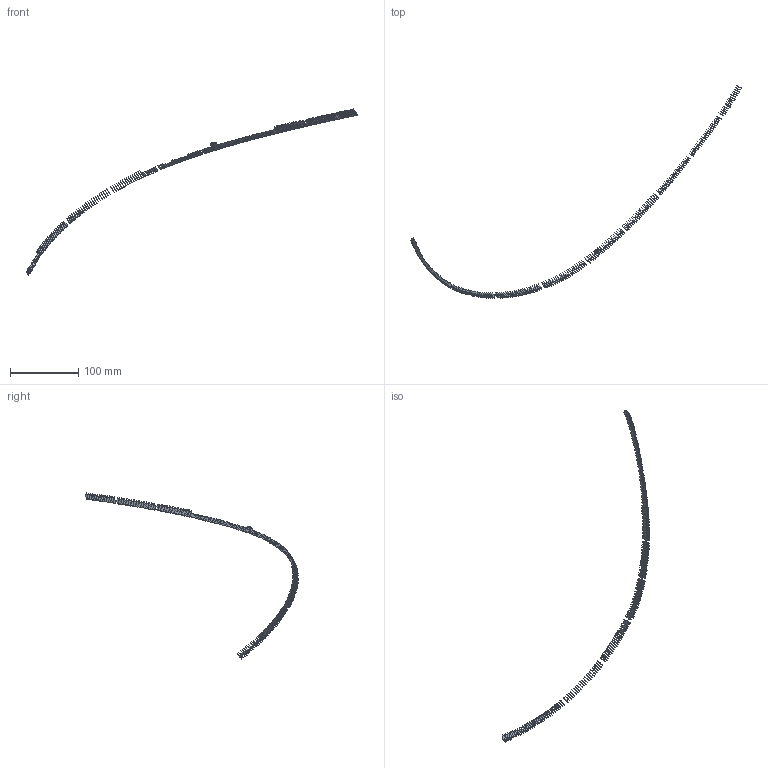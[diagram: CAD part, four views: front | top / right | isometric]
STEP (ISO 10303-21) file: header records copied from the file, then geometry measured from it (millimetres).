
FILE_DESCRIPTION(('FreeCAD Model'),'2;1');
FILE_NAME('Open CASCADE Shape Model','2022-05-22T07:50:33',('FreeCAD'),( 'FreeCAD'),'Open CASCADE STEP processor 7.5','FreeCAD','Unknown');
FILE_SCHEMA(('AUTOMOTIVE_DESIGN { 1 0 10303 214 1 1 1 1 }'));
Length unit declared in the file: millimetre
Products named in the file (214): Open CASCADE STEP translator 7.5 10; Open CASCADE STEP translator 7.5 10.1; Open CASCADE STEP translator 7.5 10.2; Open CASCADE STEP translator 7.5 10.3; Open CASCADE STEP translator 7.5 10.4; Open CASCADE STEP translator 7.5 10.5; Open CASCADE STEP translator 7.5 10.6; Open CASCADE STEP translator 7.5 10.7; Open CASCADE STEP translator 7.5 10.8; Open CASCADE STEP translator 7.5 10.9; Open CASCADE STEP translator 7.5 10.10; Open CASCADE STEP translator 7.5 10.11; Open CASCADE STEP translator 7.5 10.12; Open CASCADE STEP translator 7.5 10.13; Open CASCADE STEP translator 7.5 10.14; Open CASCADE STEP translator 7.5 10.15; Open CASCADE STEP translator 7.5 10.16; Open CASCADE STEP translator 7.5 10.17; Open CASCADE STEP translator 7.5 10.18; Open CASCADE STEP translator 7.5 10.19; Open CASCADE STEP translator 7.5 10.20; Open CASCADE STEP translator 7.5 10.21; Open CASCADE STEP translator 7.5 10.22; Open CASCADE STEP translator 7.5 10.23; Open CASCADE STEP translator 7.5 10.24; Open CASCADE STEP translator 7.5 10.25; Open CASCADE STEP translator 7.5 10.26; Open CASCADE STEP translator 7.5 10.27; Open CASCADE STEP translator 7.5 10.28; Open CASCADE STEP translator 7.5 10.29; Open CASCADE STEP translator 7.5 10.30; Open CASCADE STEP translator 7.5 10.31; Open CASCADE STEP translator 7.5 10.32; Open CASCADE STEP translator 7.5 10.33; Open CASCADE STEP translator 7.5 10.34; Open CASCADE STEP translator 7.5 10.35; Open CASCADE STEP translator 7.5 10.36; Open CASCADE STEP translator 7.5 10.37; Open CASCADE STEP translator 7.5 10.38; Open CASCADE STEP translator 7.5 10.39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
Assembly tree (213 placements, depth 2):
  Open CASCADE STEP translator 7.5 10
    Open CASCADE STEP translator 7.5 10.1
    Open CASCADE STEP translator 7.5 10.2
    Open CASCADE STEP translator 7.5 10.3
    Open CASCADE STEP translator 7.5 10.4
    Open CASCADE STEP translator 7.5 10.5
    Open CASCADE STEP translator 7.5 10.6
    Open CASCADE STEP translator 7.5 10.7
    Open CASCADE STEP translator 7.5 10.8
    Open CASCADE STEP translator 7.5 10.9
    Open CASCADE STEP translator 7.5 10.10
    Open CASCADE STEP translator 7.5 10.11
    Open CASCADE STEP translator 7.5 10.12
    Open CASCADE STEP translator 7.5 10.13
    Open CASCADE STEP translator 7.5 10.14
    Open CASCADE STEP translator 7.5 10.15
    Open CASCADE STEP translator 7.5 10.16
    Open CASCADE STEP translator 7.5 10.17
    Open CASCADE STEP translator 7.5 10.18
    Open CASCADE STEP translator 7.5 10.19
    Open CASCADE STEP translator 7.5 10.20
    Open CASCADE STEP translator 7.5 10.21
    Open CASCADE STEP translator 7.5 10.22
    Open CASCADE STEP translator 7.5 10.23
    Open CASCADE STEP translator 7.5 10.24
    Open CASCADE STEP translator 7.5 10.25
    Open CASCADE STEP translator 7.5 10.26
    Open CASCADE STEP translator 7.5 10.27
    Open CASCADE STEP translator 7.5 10.28
    Open CASCADE STEP translator 7.5 10.29
    Open CASCADE STEP translator 7.5 10.30
    Open CASCADE STEP translator 7.5 10.31
    Open CASCADE STEP translator 7.5 10.32
    Open CASCADE STEP translator 7.5 10.33
    Open CASCADE STEP translator 7.5 10.34
    Open CASCADE STEP translator 7.5 10.35
    Open CASCADE STEP translator 7.5 10.36
    Open CASCADE STEP translator 7.5 10.37
    Open CASCADE STEP translator 7.5 10.38
    Open CASCADE STEP translator 7.5 10.39
    Open CASCADE STEP translator 7.5 10.40
    Open CASCADE STEP translator 7.5 10.41
    Open CASCADE STEP translator 7.5 10.42
    Open CASCADE STEP translator 7.5 10.43
    Open CASCADE STEP translator 7.5 10.44
    Open CASCADE STEP translator 7.5 10.45
    Open CASCADE STEP translator 7.5 10.46
    Open CASCADE STEP translator 7.5 10.47
    Open CASCADE STEP translator 7.5 10.48
    Open CASCADE STEP translator 7.5 10.49
    Open CASCADE STEP translator 7.5 10.50
    Open CASCADE STEP translator 7.5 10.51
    Open CASCADE STEP translator 7.5 10.52
    Open CASCADE STEP translator 7.5 10.53
    Open CASCADE STEP translator 7.5 10.54
    Open CASCADE STEP translator 7.5 10.55
    Open CASCADE STEP translator 7.5 10.56
    Open CASCADE STEP translator 7.5 10.57
    Open CASCADE STEP translator 7.5 10.58
    Open CASCADE STEP translator 7.5 10.59
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Bounding box: 483.49 x 310.65 x 243.24 mm (x, y, z)
Surface area: 7559 mm2 (no closed solid volume)
Topology: 0 solids, 213 shells, 213 faces, 9714 edges, 9714 vertices
Faces by surface type: bspline 213
Entity records: 132262 total; most frequent: CARTESIAN_POINT 49636, B_SPLINE_CURVE_WITH_KNOTS 19428, ORIENTED_EDGE 9714, EDGE_CURVE 9714, VERTEX_POINT 9714, SURFACE_CURVE 9714, PCURVE 9714, DEFINITIONAL_REPRESENTATION 9714
